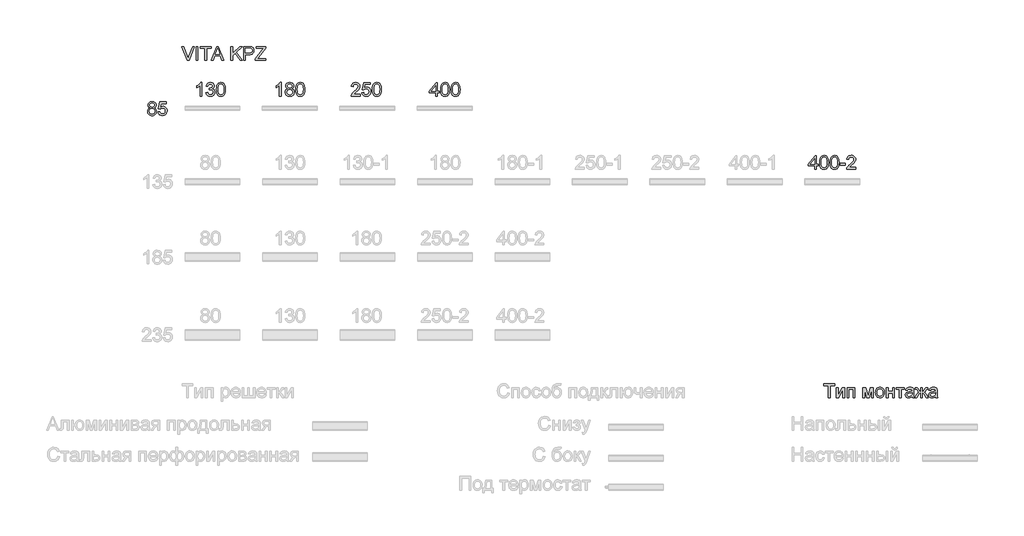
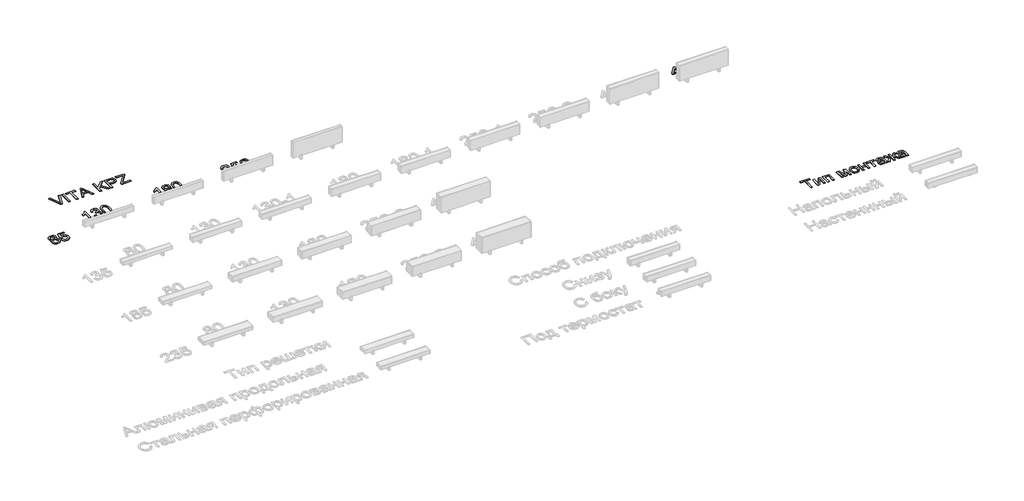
# One storey, part 7 of 7: 8 proxies.
"""IFC4 building model written with IfcOpenShell, lengths in millimetres."""

from ifc_helpers import new_model, si_unit, origin, origin_with_axes, place, context, project, spatial, polyline, outline, extrude, element, save

model = new_model("IFC4")

# Units and contexts
model_context = context("Model", 3, world=origin())
ifc_project = project(units=[si_unit("LENGTHUNIT", "METRE", prefix="MILLI")], contexts=[model_context])

# Site, building, storey
site = spatial("IfcSite", under=ifc_project)
building = spatial("IfcBuilding", under=site)
storey = spatial("IfcBuildingStorey", under=building, Name="Уровень 1", Elevation=0.0)

# Proxies
placement = place(None, origin())
element("IfcBuildingElementProxy", 1, Name="Текст модели 1", ObjectType="Текст модели 1", at=placement, inside=storey, context=model_context, shape_type="SweptSolid", body=[
    extrude(outline(polyline([(1174.9533839, 1247.2159763), (1055.0238535, 1548.5849067), (1095.3437202, 1548.5849067), (1175.6155715, 1331.4609532), (1191.8759557, 1282.5326478), (1207.9156107, 1331.4609532), (1288.4081912, 1548.5849067), (1328.7280579, 1548.5849067), (1213.875299, 1247.2159763), (1174.9533839, 1247.2159763)])), origin_with_axes(), (0.0, 0.0, 1.0), 10.0),
    extrude(outline(polyline([(1368.4593134, 1247.2159763), (1368.4593134, 1548.5849067), (1406.1304297, 1548.5849067), (1406.1304297, 1247.2159763), (1368.4593134, 1247.2159763)])), origin_with_axes(), (0.0, 0.0, 1.0), 10.0),
    extrude(outline(polyline([(1556.8148949, 1247.2159763), (1556.8148949, 1510.9137904), (1457.9282146, 1510.9137904), (1457.9282146, 1548.5849067), (1693.3726915, 1548.5849067), (1693.3726915, 1510.9137904), (1594.4860112, 1510.9137904), (1594.4860112, 1247.2159763), (1556.8148949, 1247.2159763)])), origin_with_axes(), (0.0, 0.0, 1.0), 10.0),
    extrude(outline(polyline([(1700.656755, 1247.2159763), (1820.9541674, 1548.5849067), (1853.0334774, 1548.5849067), (1973.3308898, 1247.2159763), (1933.526058, 1247.2159763), (1899.0187268, 1341.3937671), (1774.8953416, 1341.3937671), (1740.4615869, 1247.2159763), (1700.656755, 1247.2159763)]), holes=[polyline([(1788.7277047, 1379.0648834), (1885.2599402, 1379.0648834), (1858.110249, 1453.1563172), (1836.9938224, 1510.9137904), (1818.2318407, 1459.6310403), (1788.7277047, 1379.0648834)])]), origin_with_axes(), (0.0, 0.0, 1.0), 10.0),
    extrude(outline(polyline([(2131.2994186, 1247.2159763), (2131.2994186, 1548.5849067), (2168.9705349, 1548.5849067), (2168.9705349, 1401.0642267), (2323.4809729, 1548.5849067), (2376.1616746, 1548.5849067), (2246.4464831, 1424.6822508), (2380.8705641, 1247.2159763), (2334.8117383, 1247.2159763), (2219.7382502, 1399.2248167), (2168.9705349, 1350.8115461), (2168.9705349, 1247.2159763), (2131.2994186, 1247.2159763)])), origin_with_axes(), (0.0, 0.0, 1.0), 10.0),
    extrude(outline(polyline([(2409.1239013, 1247.2159763), (2409.1239013, 1548.5849067), (2520.8128751, 1548.5849067), (2565.8416313, 1545.7154272), (2585.9187912, 1540.3535471), (2602.4458898, 1531.6255468), (2615.754021, 1519.135953), (2626.1742785, 1502.4892928), (2632.906519, 1482.8535913), (2635.1505992, 1461.3968739), (2633.6353852, 1442.8970081), (2629.0897433, 1425.8778673), (2621.5136735, 1410.3394515), (2610.9071757, 1396.2817607), (2596.3459465, 1384.6290985), (2576.9056823, 1376.3057684), (2552.5863831, 1371.3117703), (2523.388049, 1369.6471043), (2446.7950176, 1369.6471043), (2446.7950176, 1247.2159763), (2409.1239013, 1247.2159763)]), holes=[polyline([(2446.7950176, 1407.3182206), (2525.595341, 1407.3182206), (2558.9990262, 1410.7763114), (2581.0719459, 1421.1505836), (2593.3775986, 1437.7972439), (2597.4794829, 1460.0724987), (2595.0606587, 1476.9950705), (2587.8041864, 1491.2688919), (2576.6113767, 1502.0110462), (2562.3835405, 1508.3386165), (2524.7124242, 1510.9137904), (2446.7950176, 1510.9137904), (2446.7950176, 1407.3182206)])]), origin_with_axes(), (0.0, 0.0, 1.0), 10.0),
    extrude(outline(polyline([(2663.4039364, 1247.2159763), (2663.4039364, 1286.2850442), (2817.5464924, 1475.0085077), (2846.8298992, 1510.9137904), (2682.2394945, 1510.9137904), (2682.2394945, 1548.5849067), (2894.1395238, 1548.5849067), (2894.1395238, 1510.9137904), (2725.4288408, 1304.3848383), (2709.5363386, 1284.8870926), (2898.8484133, 1284.8870926), (2898.8484133, 1247.2159763), (2663.4039364, 1247.2159763)])), origin_with_axes(), (0.0, 0.0, 1.0), 10.0),
])
element("IfcBuildingElementProxy", 2, Name="Текст модели 1", ObjectType="Текст модели 1", at=placement, inside=storey, context=model_context, shape_type="SweptSolid", body=[
    extrude(outline(polyline([(1492.2063954, 459.2293659), (1454.535279, 459.2293659), (1454.535279, 694.0852316), (1418.8507255, 668.6645858), (1379.1930464, 649.6450866), (1379.1930464, 685.2560637), (1408.7799559, 701.350901), (1434.4121339, 720.4991589), (1454.6180525, 740.8614273), (1467.9261837, 760.5982964), (1492.2063954, 760.5982964), (1492.2063954, 459.2293659)])), origin_with_axes(), (0.0, 0.0, 1.0), 10.0),
    extrude(outline(polyline([(1581.6752966, 539.2804881), (1619.3464129, 543.9893776), (1627.7801076, 520.3161712), (1640.1317456, 504.3316985), (1657.0083321, 495.2266191), (1679.0168725, 492.1915927), (1704.8421886, 496.3670533), (1724.7813927, 508.8934353), (1737.5285038, 527.5818406), (1741.7775409, 550.2433715), (1737.565292, 571.7552712), (1724.9285455, 589.2020748), (1705.7986818, 600.7627665), (1682.1070813, 604.6163304), (1655.693154, 600.4960521), (1659.8870088, 638.1671684), (1665.9202735, 637.72571), (1688.4898339, 640.4296426), (1708.6681613, 648.5414406), (1722.9051945, 662.263439), (1727.6508723, 681.797973), (1724.2111756, 698.0675542), (1713.8920856, 711.2653208), (1698.1467363, 720.0117152), (1678.4282613, 722.9271801), (1658.6729982, 719.9841241), (1642.5229786, 711.1549562), (1630.7323606, 696.4396764), (1624.0553024, 675.8382847), (1586.3841861, 680.5471742), (1597.4758283, 714.3739237), (1617.2126973, 739.6290226), (1644.2152358, 755.3559779), (1677.1038861, 760.5982964), (1700.7862896, 758.0139253), (1722.5373125, 750.2608123), (1740.87623, 738.028736), (1754.3223169, 722.0074751), (1762.5720707, 703.548996), (1765.3219886, 684.005265), (1762.7100264, 665.7951062), (1754.8741399, 649.2772046), (1741.9246937, 635.2057183), (1723.9720523, 624.3348053), (1747.5532882, 614.8066617), (1765.027683, 598.5830657), (1775.8434136, 576.5469342), (1779.4486572, 549.5811839), (1777.6460354, 530.4697143), (1772.2381701, 512.8665608), (1763.2250612, 496.7717235), (1750.6067088, 482.1852024), (1735.2338399, 470.0818848), (1717.9571817, 461.4366579), (1698.7767342, 456.2495217), (1677.6924973, 454.5204764), (1658.63621, 455.9966029), (1641.2721798, 460.4249824), (1625.6004068, 467.8056149), (1611.620891, 478.1385005), (1599.8992509, 490.8166337), (1591.0011052, 505.2330094), (1584.9264537, 521.3876275), (1581.6752966, 539.2804881)])), origin_with_axes(), (0.0, 0.0, 1.0), 10.0),
    extrude(outline(polyline([(1812.410884, 607.48581), (1815.179196, 655.7243366), (1823.484132, 694.1955962), (1837.2429186, 723.4882001), (1856.3727824, 744.1907594), (1881.011679, 756.4964121), (1911.2975643, 760.5982964), (1934.5109182, 758.1702752), (1955.2962509, 750.8862117), (1972.6786752, 739.0312144), (1985.6833037, 722.8903919), (1995.505753, 702.6016998), (2003.3416395, 678.303094), (2008.4735933, 647.4469917), (2010.1842446, 607.48581), (2007.4435237, 559.5231948), (1999.2213611, 521.1439057), (1985.5453479, 491.8237107), (1966.4430753, 471.038378), (1941.7489964, 458.6499518), (1911.2975643, 454.5204764), (1890.5490197, 456.3139011), (1872.15492, 461.6941753), (1856.115265, 470.6612989), (1842.4300548, 483.215272), (1829.2966675, 505.9089926), (1819.9156767, 534.1853224), (1814.2870821, 568.0442616), (1812.410884, 607.48581)]), holes=[polyline([(1850.0820003, 607.5593864), (1854.4965842, 548.302794), (1860.0148141, 528.0347953), (1867.740336, 514.006995), (1887.458811, 497.6454433), (1911.2975643, 492.1915927), (1935.1363175, 497.6638374), (1954.8547925, 514.0805714), (1962.5803144, 528.1313643), (1968.0985443, 548.3947645), (1972.5131283, 607.5593864), (1968.2456971, 665.4824065), (1962.9114082, 685.6837266), (1955.4434037, 700.04492), (1935.7617169, 717.206615), (1910.8561059, 722.9271801), (1887.27487, 717.8871967), (1868.3289472, 702.7672467), (1860.3459079, 687.1322619), (1854.643737, 666.0526236), (1850.0820003, 607.5593864)])]), origin_with_axes(), (0.0, 0.0, 1.0), 10.0),
])
element("IfcBuildingElementProxy", 3, Name="Текст модели 1", ObjectType="Текст модели 1", at=placement, inside=storey, context=model_context, shape_type="SweptSolid", body=[
    extrude(outline(polyline([(355.9285764, 204.6480041), (335.759446, 214.580818), (321.6051862, 228.045299), (313.2450679, 244.7655357), (310.4583617, 264.4656165), (311.975875, 279.8292884), (316.5284147, 293.9145702), (324.1159808, 306.7214622), (334.7385734, 318.2499642), (347.8857562, 327.7781079), (363.047093, 334.5839248), (399.4122282, 340.0285783), (435.9980926, 334.4551661), (451.3249762, 327.4884008), (464.6744941, 317.7349294), (475.4902248, 305.9810997), (483.2157467, 293.0132594), (487.8510598, 278.8314084), (489.3961642, 263.4355469), (486.6462463, 244.3700625), (478.3964925, 227.9349344), (464.5549325, 214.5532268), (445.0295956, 204.6480041), (468.2153583, 192.7010363), (485.0919449, 175.1070799), (495.3834437, 152.7122634), (498.8139433, 126.3627155), (497.112489, 107.5731426), (492.0081264, 90.3470682), (483.5008552, 74.6844923), (471.5906756, 60.5854148), (456.902987, 48.9327526), (440.0631886, 40.6094225), (421.0712806, 35.6154244), (399.927263, 33.9507584), (378.7832453, 35.6223222), (359.7913373, 40.6370136), (342.951539, 48.9948327), (328.2638503, 60.6957794), (316.3536707, 74.8937252), (307.8463996, 90.7425414), (302.7420369, 108.242228), (301.0405827, 127.3927851), (304.609038, 154.7632056), (315.3144041, 177.2775837), (332.6048579, 194.1633673), (355.9285764, 204.6480041)]), holes=[polyline([(338.711699, 128.7171603), (345.0024811, 100.3534585), (353.7120873, 88.1857615), (367.2593418, 79.1266674), (383.4829378, 73.4980728), (400.2215686, 71.6218747), (425.8629436, 75.5674091), (445.103172, 87.4040123), (457.1329132, 105.3290625), (461.142827, 127.5399379), (457.0041545, 150.1278924), (444.5881372, 168.4484158), (424.9064504, 180.5885216), (398.9707698, 184.6352236), (373.6880797, 180.6437039), (354.6409894, 168.669145), (342.6940216, 150.6981095), (338.711699, 128.7171603)]), polyline([(348.1294781, 263.3619705), (351.4680072, 246.9176454), (361.4835945, 233.7842581), (377.8819344, 225.1758194), (400.3687214, 222.3063399), (422.3312765, 225.1574253), (438.4812961, 233.7106817), (448.4141099, 246.4026106), (451.7250479, 261.6697134), (448.3037453, 277.5162303), (438.0398377, 290.6220264), (421.6690889, 299.4236031), (399.927263, 302.357462), (378.0474813, 299.4879825), (361.7043237, 290.8795438), (351.5231895, 278.2611914), (348.1294781, 263.3619705)])]), origin_with_axes(), (0.0, 0.0, 1.0), 10.0),
    extrude(outline(polyline([(531.77617, 118.71077), (569.4472864, 123.4196596), (576.3634679, 100.8041139), (588.4299973, 84.6081091), (605.5916924, 74.8684333), (627.7933708, 71.6218747), (654.7959092, 76.1376262), (675.029419, 89.6848806), (687.6661655, 110.7001396), (691.8784143, 137.6199046), (687.9328799, 162.9669741), (676.0962768, 182.3543552), (656.2766343, 194.6600079), (628.381982, 198.7618922), (610.1074439, 197.1248173), (595.3093906, 192.2135927), (574.1561759, 175.2174445), (536.4850596, 179.926334), (569.4472864, 335.3196888), (715.422862, 335.3196888), (715.422862, 297.6485725), (599.9079156, 297.6485725), (583.7946842, 214.6543944), (610.7052521, 230.988355), (638.903407, 236.4330085), (657.2492223, 234.7453498), (674.1005169, 229.6823739), (689.457291, 221.2440806), (703.3195444, 209.4304701), (714.7951634, 194.9635106), (722.9920341, 178.5651707), (727.9101565, 160.2354503), (729.5495307, 139.9743494), (723.6450246, 102.3032331), (716.2643921, 85.50942), (705.9315066, 70.0767703), (690.2781277, 54.2716401), (672.0127866, 42.9822613), (651.1354834, 36.2086341), (627.646218, 33.9507584), (590.6464863, 39.7540968), (574.9678155, 47.0082699), (561.1699415, 57.1641123), (549.6897239, 69.7157861), (540.9640229, 84.1574536), (531.77617, 118.71077)])), origin_with_axes(), (0.0, 0.0, 1.0), 10.0),
])
element("IfcBuildingElementProxy", 4, Name="Текст модели 1", ObjectType="Текст модели 1", at=placement, inside=storey, context=model_context, shape_type="SweptSolid", body=[
    extrude(outline(polyline([(3232.2063954, 459.2293659), (3194.535279, 459.2293659), (3194.535279, 694.0852316), (3158.8507255, 668.6645858), (3119.1930464, 649.6450866), (3119.1930464, 685.2560637), (3148.7799559, 701.350901), (3174.4121339, 720.4991589), (3194.6180525, 740.8614273), (3207.9261837, 760.5982964), (3232.2063954, 760.5982964), (3232.2063954, 459.2293659)])), origin_with_axes(), (0.0, 0.0, 1.0), 10.0),
    extrude(outline(polyline([(3376.5632903, 625.2177221), (3356.3941599, 635.150536), (3342.2399001, 648.615017), (3333.8797818, 665.3352537), (3331.0930757, 685.0353345), (3332.6105889, 700.3990064), (3337.1631286, 714.4842883), (3344.7506947, 727.2911802), (3355.3732873, 738.8196822), (3368.5204701, 748.3478259), (3383.6818069, 755.1536428), (3420.0469421, 760.5982964), (3456.6328065, 755.0248841), (3471.9596901, 748.0581188), (3485.309208, 738.3046475), (3496.1249387, 726.5508177), (3503.8504606, 713.5829774), (3508.4857737, 699.4011265), (3510.0308781, 684.005265), (3507.2809602, 664.9397806), (3499.0312065, 648.5046524), (3485.1896464, 635.1229449), (3465.6643095, 625.2177221), (3488.8500722, 613.2707543), (3505.7266588, 595.6767979), (3516.0181576, 573.2819815), (3519.4486572, 546.9324336), (3517.747203, 528.1428607), (3512.6428403, 510.9167862), (3504.1355691, 495.2542103), (3492.2253895, 481.1551328), (3477.5377009, 469.5024706), (3460.6979026, 461.1791405), (3441.7059946, 456.1851424), (3420.5619769, 454.5204764), (3399.4179592, 456.1920402), (3380.4260512, 461.2067316), (3363.5862529, 469.5645507), (3348.8985642, 481.2654974), (3336.9883846, 495.4634432), (3328.4811135, 511.3122594), (3323.3767508, 528.811946), (3321.6752966, 547.9625031), (3325.2437519, 575.3329236), (3335.949118, 597.8473017), (3353.2395718, 614.7330853), (3376.5632903, 625.2177221)]), holes=[polyline([(3359.3464129, 549.2868783), (3365.637195, 520.9231765), (3374.3468012, 508.7554795), (3387.8940557, 499.6963854), (3404.1176517, 494.0677909), (3420.8562825, 492.1915927), (3446.4976575, 496.1371271), (3465.7378859, 507.9737303), (3477.7676271, 525.8987805), (3481.7775409, 548.1096559), (3477.6388684, 570.6976104), (3465.2228511, 589.0181338), (3445.5411644, 601.1582396), (3419.6054837, 605.2049416), (3394.3227936, 601.2134219), (3375.2757033, 589.238863), (3363.3287355, 571.2678275), (3359.3464129, 549.2868783)]), polyline([(3368.764192, 683.9316886), (3372.1027211, 667.4873634), (3382.1183084, 654.3539762), (3398.5166483, 645.7455375), (3421.0034353, 642.8760579), (3442.9659904, 645.7271434), (3459.11601, 654.2803998), (3469.0488238, 666.9723286), (3472.3597618, 682.2394314), (3468.9384593, 698.0859483), (3458.6745516, 711.1917444), (3442.3038028, 719.9933211), (3420.5619769, 722.9271801), (3398.6821952, 720.0577005), (3382.3390376, 711.4492618), (3372.1579034, 698.8309094), (3368.764192, 683.9316886)])]), origin_with_axes(), (0.0, 0.0, 1.0), 10.0),
    extrude(outline(polyline([(3552.410884, 607.48581), (3555.179196, 655.7243366), (3563.484132, 694.1955962), (3577.2429186, 723.4882001), (3596.3727824, 744.1907594), (3621.011679, 756.4964121), (3651.2975643, 760.5982964), (3674.5109182, 758.1702752), (3695.2962509, 750.8862117), (3712.6786752, 739.0312144), (3725.6833037, 722.8903919), (3735.505753, 702.6016998), (3743.3416395, 678.303094), (3748.4735933, 647.4469917), (3750.1842446, 607.48581), (3747.4435237, 559.5231948), (3739.2213611, 521.1439057), (3725.5453479, 491.8237107), (3706.4430753, 471.038378), (3681.7489964, 458.6499518), (3651.2975643, 454.5204764), (3630.5490197, 456.3139011), (3612.15492, 461.6941753), (3596.115265, 470.6612989), (3582.4300548, 483.215272), (3569.2966675, 505.9089926), (3559.9156767, 534.1853224), (3554.2870821, 568.0442616), (3552.410884, 607.48581)]), holes=[polyline([(3590.0820003, 607.5593864), (3594.4965842, 548.302794), (3600.0148141, 528.0347953), (3607.740336, 514.006995), (3627.458811, 497.6454433), (3651.2975643, 492.1915927), (3675.1363175, 497.6638374), (3694.8547925, 514.0805714), (3702.5803144, 528.1313643), (3708.0985443, 548.3947645), (3712.5131283, 607.5593864), (3708.2456971, 665.4824065), (3702.9114082, 685.6837266), (3695.4434037, 700.04492), (3675.7617169, 717.206615), (3650.8561059, 722.9271801), (3627.27487, 717.8871967), (3608.3289472, 702.7672467), (3600.3459079, 687.1322619), (3594.643737, 666.0526236), (3590.0820003, 607.5593864)])]), origin_with_axes(), (0.0, 0.0, 1.0), 10.0),
])
element("IfcBuildingElementProxy", 5, Name="Текст модели 1", ObjectType="Текст модели 1", at=placement, inside=storey, context=model_context, shape_type="SweptSolid", body=[
    extrude(outline(polyline([(4964.0041803, 496.9004822), (4964.0041803, 459.2293659), (4766.2308197, 459.2293659), (4770.2775216, 485.2018348), (4779.566542, 505.4997239), (4793.1597817, 525.1906076), (4812.8230744, 545.8011964), (4840.3222535, 568.8582005), (4880.973214, 604.9658183), (4905.3637902, 631.6188688), (4917.5590784, 653.2503302), (4921.6241744, 674.2931803), (4917.7890046, 693.1563296), (4906.2834952, 708.8372996), (4888.5975683, 719.4047099), (4866.221146, 722.9271801), (4842.7226835, 719.4874834), (4824.4665395, 709.1683934), (4812.6851186, 692.7792505), (4808.6108255, 671.1293951), (4770.9397092, 675.8382847), (4780.0723797, 712.2769963), (4788.6187383, 726.8129336), (4799.8184458, 738.8932586), (4813.4139848, 748.3892126), (4829.1478379, 755.1720369), (4867.0304863, 760.5982964), (4887.2203101, 759.0899802), (4905.1890463, 754.5650316), (4920.936695, 747.0234507), (4934.4632561, 736.4652375), (4945.3272712, 723.6721411), (4953.0872821, 709.4259108), (4957.7432886, 693.7265467), (4959.2952907, 676.5740487), (4957.6214277, 658.5570279), (4952.5998384, 640.8527069), (4943.6878971, 622.8448833), (4930.3429777, 603.9173546), (4909.0702013, 581.3202031), (4876.374689, 552.3035107), (4833.03819, 516.0671342), (4816.0420418, 496.9004822), (4964.0041803, 496.9004822)])), origin_with_axes(), (0.0, 0.0, 1.0), 10.0),
    extrude(outline(polyline([(5001.6752966, 539.2804881), (5039.3464129, 543.9893776), (5046.2625944, 521.3738319), (5058.3291238, 505.1778271), (5075.4908189, 495.4381513), (5097.6924973, 492.1915927), (5124.6950358, 496.7073442), (5144.9285455, 510.2545986), (5157.565292, 531.2698576), (5161.7775409, 558.1896226), (5157.8320065, 583.5366921), (5145.9954033, 602.9240732), (5126.1757608, 615.229726), (5098.2811085, 619.3316102), (5080.0065704, 617.6945353), (5065.2085171, 612.7833107), (5044.0553024, 595.7871625), (5006.3841861, 600.4960521), (5039.3464129, 755.8894068), (5185.3219886, 755.8894068), (5185.3219886, 718.2182905), (5069.8070421, 718.2182905), (5053.6938107, 635.2241124), (5080.6043786, 651.558073), (5108.8025336, 657.0027265), (5127.1483488, 655.3150679), (5143.9996435, 650.2520919), (5159.3564175, 641.8137986), (5173.2186709, 630.0001881), (5184.6942899, 615.5332286), (5192.8911606, 599.1348887), (5197.809283, 580.8051683), (5199.4486572, 560.5440674), (5193.5441512, 522.8729511), (5186.1635186, 506.079138), (5175.8306331, 490.6464883), (5160.1772542, 474.8413581), (5141.9119131, 463.5519794), (5121.0346099, 456.7783521), (5097.5453445, 454.5204764), (5060.5456129, 460.3238148), (5044.8669421, 467.5779879), (5031.069068, 477.7338303), (5019.5888505, 490.2855041), (5010.8631494, 504.7271717), (5001.6752966, 539.2804881)])), origin_with_axes(), (0.0, 0.0, 1.0), 10.0),
    extrude(outline(polyline([(5232.410884, 607.48581), (5235.179196, 655.7243366), (5243.484132, 694.1955962), (5257.2429186, 723.4882001), (5276.3727824, 744.1907594), (5301.011679, 756.4964121), (5331.2975643, 760.5982964), (5354.5109182, 758.1702752), (5375.2962509, 750.8862117), (5392.6786752, 739.0312144), (5405.6833037, 722.8903919), (5415.505753, 702.6016998), (5423.3416395, 678.303094), (5428.4735933, 647.4469917), (5430.1842446, 607.48581), (5427.4435237, 559.5231948), (5419.2213611, 521.1439057), (5405.5453479, 491.8237107), (5386.4430753, 471.038378), (5361.7489964, 458.6499518), (5331.2975643, 454.5204764), (5310.5490197, 456.3139011), (5292.15492, 461.6941753), (5276.115265, 470.6612989), (5262.4300548, 483.215272), (5249.2966675, 505.9089926), (5239.9156767, 534.1853224), (5234.2870821, 568.0442616), (5232.410884, 607.48581)]), holes=[polyline([(5270.0820003, 607.5593864), (5274.4965842, 548.302794), (5280.0148141, 528.0347953), (5287.740336, 514.006995), (5307.458811, 497.6454433), (5331.2975643, 492.1915927), (5355.1363175, 497.6638374), (5374.8547925, 514.0805714), (5382.5803144, 528.1313643), (5388.0985443, 548.3947645), (5392.5131283, 607.5593864), (5388.2456971, 665.4824065), (5382.9114082, 685.6837266), (5375.4434037, 700.04492), (5355.7617169, 717.206615), (5330.8561059, 722.9271801), (5307.27487, 717.8871967), (5288.3289472, 702.7672467), (5280.3459079, 687.1322619), (5274.643737, 666.0526236), (5270.0820003, 607.5593864)])]), origin_with_axes(), (0.0, 0.0, 1.0), 10.0),
])
element("IfcBuildingElementProxy", 6, Name="Текст модели 1", ObjectType="Текст модели 1", at=placement, inside=storey, context=model_context, shape_type="SweptSolid", body=[
    extrude(outline(polyline([(6619.4742183, 459.2293659), (6619.4742183, 529.862709), (6482.9164217, 529.862709), (6482.9164217, 567.5338253), (6628.8919973, 755.8894068), (6657.1453346, 755.8894068), (6657.1453346, 567.5338253), (6694.8164509, 567.5338253), (6694.8164509, 529.862709), (6657.1453346, 529.862709), (6657.1453346, 459.2293659), (6619.4742183, 459.2293659)]), holes=[polyline([(6619.4742183, 567.5338253), (6619.4742183, 683.9316886), (6529.269553, 567.5338253), (6619.4742183, 567.5338253)])]), origin_with_axes(), (0.0, 0.0, 1.0), 10.0),
    extrude(outline(polyline([(6727.7786776, 607.48581), (6730.5469897, 655.7243366), (6738.8519257, 694.1955962), (6752.6107123, 723.4882001), (6771.7405761, 744.1907594), (6796.3794727, 756.4964121), (6826.6653579, 760.5982964), (6849.8787118, 758.1702752), (6870.6640446, 750.8862117), (6888.0464688, 739.0312144), (6901.0510974, 722.8903919), (6910.8735466, 702.6016998), (6918.7094331, 678.303094), (6923.841387, 647.4469917), (6925.5520383, 607.48581), (6922.8113174, 559.5231948), (6914.5891548, 521.1439057), (6900.9131416, 491.8237107), (6881.810869, 471.038378), (6857.1167901, 458.6499518), (6826.6653579, 454.5204764), (6805.9168134, 456.3139011), (6787.5227137, 461.6941753), (6771.4830587, 470.6612989), (6757.7978485, 483.215272), (6744.6644612, 505.9089926), (6735.2834703, 534.1853224), (6729.6548758, 568.0442616), (6727.7786776, 607.48581)]), holes=[polyline([(6765.449794, 607.5593864), (6769.8643779, 548.302794), (6775.3826078, 528.0347953), (6783.1081297, 514.006995), (6802.8266047, 497.6454433), (6826.6653579, 492.1915927), (6850.5041112, 497.6638374), (6870.2225862, 514.0805714), (6877.9481081, 528.1313643), (6883.466338, 548.3947645), (6887.8809219, 607.5593864), (6883.6134908, 665.4824065), (6878.2792019, 685.6837266), (6870.8111974, 700.04492), (6851.1295106, 717.206615), (6826.2238996, 722.9271801), (6802.6426637, 717.8871967), (6783.6967409, 702.7672467), (6775.7137016, 687.1322619), (6770.0115307, 666.0526236), (6765.449794, 607.5593864)])]), origin_with_axes(), (0.0, 0.0, 1.0), 10.0),
    extrude(outline(polyline([(6958.514265, 607.48581), (6961.282577, 655.7243366), (6969.5875131, 694.1955962), (6983.3462997, 723.4882001), (7002.4761634, 744.1907594), (7027.1150601, 756.4964121), (7057.4009453, 760.5982964), (7080.6142992, 758.1702752), (7101.3996319, 750.8862117), (7118.7820562, 739.0312144), (7131.7866847, 722.8903919), (7141.609134, 702.6016998), (7149.4450205, 678.303094), (7154.5769743, 647.4469917), (7156.2876256, 607.48581), (7153.5469048, 559.5231948), (7145.3247422, 521.1439057), (7131.648729, 491.8237107), (7112.5464564, 471.038378), (7087.8523775, 458.6499518), (7057.4009453, 454.5204764), (7036.6524008, 456.3139011), (7018.258301, 461.6941753), (7002.218646, 470.6612989), (6988.5334358, 483.215272), (6975.4000486, 505.9089926), (6966.0190577, 534.1853224), (6960.3904632, 568.0442616), (6958.514265, 607.48581)]), holes=[polyline([(6996.1853813, 607.5593864), (7000.5999653, 548.302794), (7006.1181952, 528.0347953), (7013.8437171, 514.006995), (7033.562192, 497.6454433), (7057.4009453, 492.1915927), (7081.2396986, 497.6638374), (7100.9581736, 514.0805714), (7108.6836955, 528.1313643), (7114.2019254, 548.3947645), (7118.6165093, 607.5593864), (7114.3490782, 665.4824065), (7109.0147892, 685.6837266), (7101.5467847, 700.04492), (7081.865098, 717.206615), (7056.9594869, 722.9271801), (7033.378251, 717.8871967), (7014.4323283, 702.7672467), (7006.449289, 687.1322619), (7000.7471181, 666.0526236), (6996.1853813, 607.5593864)])]), origin_with_axes(), (0.0, 0.0, 1.0), 10.0),
])
element("IfcBuildingElementProxy", 7, Name="Текст модели 1", ObjectType="Текст модели 1", at=placement, inside=storey, context=model_context, shape_type="SweptSolid", body=[
    extrude(outline(polyline([(14933.4730815, -1140.7706341), (14933.4730815, -1070.137291), (14796.9152849, -1070.137291), (14796.9152849, -1032.4661747), (14942.8908606, -844.1105932), (14971.1441978, -844.1105932), (14971.1441978, -1032.4661747), (15008.8153141, -1032.4661747), (15008.8153141, -1070.137291), (14971.1441978, -1070.137291), (14971.1441978, -1140.7706341), (14933.4730815, -1140.7706341)]), holes=[polyline([(14933.4730815, -1032.4661747), (14933.4730815, -916.0683114), (14843.2684163, -1032.4661747), (14933.4730815, -1032.4661747)])]), origin_with_axes(), (0.0, 0.0, 1.0), 10.0),
    extrude(outline(polyline([(15041.7775409, -992.51419), (15044.5458529, -944.2756634), (15052.8507889, -905.8044038), (15066.6095756, -876.5117999), (15085.7394393, -855.8092406), (15110.3783359, -843.5035879), (15140.6642212, -839.4017036), (15163.8775751, -841.8297248), (15184.6629078, -849.1137883), (15202.0453321, -860.9687856), (15215.0499606, -877.1096081), (15224.8724099, -897.3983002), (15232.7082964, -921.696906), (15237.8402502, -952.5530083), (15239.5509015, -992.51419), (15236.8101806, -1040.4768052), (15228.588018, -1078.8560943), (15214.9120049, -1108.1762893), (15195.8097323, -1128.961622), (15171.1156533, -1141.3500482), (15140.6642212, -1145.4795236), (15119.9156767, -1143.6860989), (15101.5215769, -1138.3058247), (15085.4819219, -1129.3387011), (15071.7967117, -1116.784728), (15058.6633245, -1094.0910074), (15049.2823336, -1065.8146776), (15043.6537391, -1031.9557384), (15041.7775409, -992.51419)]), holes=[polyline([(15079.4486572, -992.4406136), (15083.8632411, -1051.697206), (15089.3814711, -1071.9652047), (15097.106993, -1085.993005), (15116.8254679, -1102.3545567), (15140.6642212, -1107.8084073), (15164.5029745, -1102.3361626), (15184.2214494, -1085.9194286), (15191.9469713, -1071.8686357), (15197.4652012, -1051.6052355), (15201.8797852, -992.4406136), (15197.612354, -934.5175935), (15192.2780651, -914.3162734), (15184.8100606, -899.95508), (15165.1283739, -882.793385), (15140.2227628, -877.0728199), (15116.6415269, -882.1128033), (15097.6956041, -897.2327533), (15089.7125649, -912.8677381), (15084.0103939, -933.9473764), (15079.4486572, -992.4406136)])]), origin_with_axes(), (0.0, 0.0, 1.0), 10.0),
    extrude(outline(polyline([(15272.5131283, -992.51419), (15275.2814403, -944.2756634), (15283.5863763, -905.8044038), (15297.3451629, -876.5117999), (15316.4750267, -855.8092406), (15341.1139233, -843.5035879), (15371.3998086, -839.4017036), (15394.6131625, -841.8297248), (15415.3984952, -849.1137883), (15432.7809195, -860.9687856), (15445.785548, -877.1096081), (15455.6079973, -897.3983002), (15463.4438838, -921.696906), (15468.5758376, -952.5530083), (15470.2864889, -992.51419), (15467.545768, -1040.4768052), (15459.3236054, -1078.8560943), (15445.6475922, -1108.1762893), (15426.5453196, -1128.961622), (15401.8512407, -1141.3500482), (15371.3998086, -1145.4795236), (15350.651264, -1143.6860989), (15332.2571643, -1138.3058247), (15316.2175093, -1129.3387011), (15302.5322991, -1116.784728), (15289.3989118, -1094.0910074), (15280.017921, -1065.8146776), (15274.3893264, -1031.9557384), (15272.5131283, -992.51419)]), holes=[polyline([(15310.1842446, -992.4406136), (15314.5988285, -1051.697206), (15320.1170584, -1071.9652047), (15327.8425803, -1085.993005), (15347.5610553, -1102.3545567), (15371.3998086, -1107.8084073), (15395.2385618, -1102.3361626), (15414.9570368, -1085.9194286), (15422.6825587, -1071.8686357), (15428.2007886, -1051.6052355), (15432.6153726, -992.4406136), (15428.3479414, -934.5175935), (15423.0136525, -914.3162734), (15415.545648, -899.95508), (15395.8639612, -882.793385), (15370.9583502, -877.0728199), (15347.3771143, -882.1128033), (15328.4311915, -897.2327533), (15320.4481522, -912.8677381), (15314.7459813, -933.9473764), (15310.1842446, -992.4406136)])]), origin_with_axes(), (0.0, 0.0, 1.0), 10.0),
    extrude(outline(polyline([(15493.8309366, -1051.3017329), (15493.8309366, -1013.6306166), (15611.553175, -1013.6306166), (15611.553175, -1051.3017329), (15493.8309366, -1051.3017329)])), origin_with_axes(), (0.0, 0.0, 1.0), 10.0),
    extrude(outline(polyline([(15837.5798728, -1103.0995178), (15837.5798728, -1140.7706341), (15639.8065122, -1140.7706341), (15643.8532142, -1114.7981652), (15653.1422346, -1094.5002761), (15666.7354743, -1074.8093924), (15686.3987669, -1054.1988036), (15713.8979461, -1031.1417995), (15754.5489065, -995.0341817), (15778.9394828, -968.3811312), (15791.134771, -946.7496698), (15795.199867, -925.7068197), (15791.3646972, -906.8436704), (15779.8591878, -891.1627004), (15762.1732609, -880.5952901), (15739.7968385, -877.0728199), (15716.2983761, -880.5125166), (15698.0422321, -890.8316066), (15686.2608112, -907.2207495), (15682.1865181, -928.8706049), (15644.5154018, -924.1617153), (15653.6480723, -887.7230037), (15662.1944309, -873.1870664), (15673.3941384, -861.1067414), (15686.9896774, -851.6107874), (15702.7235305, -844.8279631), (15740.6061789, -839.4017036), (15760.7960027, -840.9100198), (15778.7647389, -845.4349684), (15794.5123875, -852.9765493), (15808.0389486, -863.5347625), (15818.9029638, -876.3278589), (15826.6629746, -890.5740892), (15831.3189811, -906.2734533), (15832.8709833, -923.4259513), (15831.1971202, -941.4429721), (15826.175531, -959.1472931), (15817.2635897, -977.1551167), (15803.9186703, -996.0826454), (15782.6458939, -1018.6797969), (15749.9503816, -1047.6964893), (15706.6138826, -1083.9328658), (15689.6177344, -1103.0995178), (15837.5798728, -1103.0995178)])), origin_with_axes(), (0.0, 0.0, 1.0), 10.0),
])
element("IfcBuildingElementProxy", 8, Name="Текст модели 1", ObjectType="Текст модели 1", at=placement, inside=storey, context=model_context, shape_type="SweptSolid", body=[
    extrude(outline(polyline([(15237.723726, -6152.7840237), (15237.723726, -5889.0862096), (15138.8370457, -5889.0862096), (15138.8370457, -5851.4150933), (15374.2815226, -5851.4150933), (15374.2815226, -5889.0862096), (15275.3948423, -5889.0862096), (15275.3948423, -6152.7840237), (15237.723726, -6152.7840237)])), origin_with_axes(), (0.0, 0.0, 1.0), 10.0),
    extrude(outline(polyline([(15411.9526389, -5931.4662154), (15449.6237552, -5931.4662154), (15449.6237552, -6100.2504748), (15542.1828652, -5931.4662154), (15590.8904414, -5931.4662154), (15590.8904414, -6152.7840237), (15553.2193251, -6152.7840237), (15553.2193251, -5985.0298339), (15461.2488263, -6152.7840237), (15411.9526389, -6152.7840237), (15411.9526389, -5931.4662154)])), origin_with_axes(), (0.0, 0.0, 1.0), 10.0),
    extrude(outline(polyline([(15647.3971158, -5931.4662154), (15816.9171392, -5931.4662154), (15816.9171392, -6152.7840237), (15779.2460229, -6152.7840237), (15779.2460229, -5969.1373317), (15685.0682321, -5969.1373317), (15685.0682321, -6152.7840237), (15647.3971158, -6152.7840237), (15647.3971158, -5931.4662154)])), origin_with_axes(), (0.0, 0.0, 1.0), 10.0),
    extrude(outline(polyline([(15991.1460521, -5931.4662154), (16055.9668597, -5931.4662154), (16105.9252346, -6108.6381843), (16159.7831587, -5931.4662154), (16221.8816395, -5931.4662154), (16221.8816395, -6152.7840237), (16184.2105232, -6152.7840237), (16184.2105232, -5974.5819852), (16130.0582935, -6152.7840237), (16080.6149533, -6152.7840237), (16028.8171684, -5966.0471229), (16028.8171684, -6152.7840237), (15991.1460521, -6152.7840237), (15991.1460521, -5931.4662154)])), origin_with_axes(), (0.0, 0.0, 1.0), 10.0),
    extrude(outline(polyline([(16268.9705349, -6042.1251196), (16271.0076814, -6013.4625136), (16277.1191211, -5988.7638362), (16287.3048538, -5968.0290872), (16301.5648797, -5951.2582667), (16315.9214745, -5940.5391051), (16331.7679915, -5932.8825611), (16349.1044305, -5928.2886347), (16367.9307916, -5926.7573259), (16388.713825, -5928.6220277), (16407.5056972, -5934.2161333), (16424.3064081, -5943.5396426), (16439.1159576, -5956.5925557), (16451.2031805, -5972.933414), (16459.836911, -5992.1207594), (16465.0171494, -6014.1545916), (16466.7438955, -6039.0349108), (16463.6904749, -6077.0923032), (16454.5302132, -6106.0630103), (16439.5298249, -6127.758851), (16418.9560243, -6143.991644), (16394.5194628, -6154.1175959), (16367.9307916, -6157.4929132), (16346.8442555, -6155.6351092), (16327.8776394, -6150.0616969), (16311.0309432, -6140.7726766), (16296.3041671, -6127.768048), (16284.345703, -6111.2685405), (16275.8039429, -6091.4948833), (16270.6788869, -6068.4470763), (16268.9705349, -6042.1251196)]), holes=[polyline([(16306.6416512, -6042.0515432), (16311.0010528, -6076.1450071), (16324.0792578, -6100.4344158), (16343.7609445, -6114.9749516), (16367.9307916, -6119.8217969), (16391.9902741, -6114.9473605), (16411.6351726, -6100.3240512), (16424.7133775, -6075.7127457), (16429.0727792, -6040.8743208), (16424.6857864, -6007.7741383), (16411.524808, -5983.8158233), (16391.8523183, -5969.2752875), (16367.9307916, -5964.4284422), (16343.7609445, -5969.2568934), (16324.0792578, -5983.7422469), (16311.0010528, -6007.9764733), (16306.6416512, -6042.0515432)])]), origin_with_axes(), (0.0, 0.0, 1.0), 10.0),
    extrude(outline(polyline([(16509.1239013, -5931.4662154), (16546.7950176, -5931.4662154), (16546.7950176, -6016.2262271), (16645.6816979, -6016.2262271), (16645.6816979, -5931.4662154), (16683.3528142, -5931.4662154), (16683.3528142, -6152.7840237), (16645.6816979, -6152.7840237), (16645.6816979, -6053.8973434), (16546.7950176, -6053.8973434), (16546.7950176, -6152.7840237), (16509.1239013, -6152.7840237), (16509.1239013, -5931.4662154)])), origin_with_axes(), (0.0, 0.0, 1.0), 10.0),
    extrude(outline(polyline([(16721.0239306, -5931.4662154), (16899.961733, -5931.4662154), (16899.961733, -5969.1373317), (16829.3283899, -5969.1373317), (16829.3283899, -6152.7840237), (16791.6572736, -6152.7840237), (16791.6572736, -5969.1373317), (16721.0239306, -5969.1373317), (16721.0239306, -5931.4662154)])), origin_with_axes(), (0.0, 0.0, 1.0), 10.0),
    extrude(outline(polyline([(17074.1906459, -6124.5306865), (17056.1920193, -6139.9633362), (17037.6599638, -6150.0616969), (17018.1714151, -6155.6351092), (16997.3033089, -6157.4929132), (16965.8218072, -6153.023147), (16942.5992562, -6139.6138483), (16928.2794496, -6119.2515798), (16923.5061807, -6093.9229045), (16925.3088025, -6078.3063138), (16930.7166678, -6064.1244629), (16939.058392, -6051.984357), (16949.6625906, -6042.4930015), (16976.0397296, -6030.1321665), (17008.6340744, -6024.4667838), (17047.1513193, -6018.5070955), (17073.9699167, -6011.5173376), (17074.1906459, -6003.1296281), (17071.5970779, -5986.3174209), (17063.8163737, -5975.3177492), (17046.4155553, -5967.1507689), (17022.1721318, -5964.4284422), (16999.7313301, -5966.240261), (16984.0595571, -5971.6757175), (16973.3725851, -5981.728093), (16965.8861865, -5997.3906689), (16928.2150702, -5992.6817794), (16934.7541727, -5972.0803877), (16944.5122426, -5955.8935799), (16958.3997879, -5943.5143507), (16977.3273166, -5934.335695), (17000.4762911, -5928.6519181), (17027.0281741, -5926.7573259), (17052.4948053, -5928.4311889), (17072.6823297, -5933.4527782), (17087.9034473, -5941.0035561), (17098.4708576, -5950.2649854), (17105.4790096, -5961.7153125), (17110.0223523, -5975.832784), (17111.8617622, -6008.7950108), (17111.8617622, -6055.663177), (17113.7747486, -6121.1093839), (17121.2795413, -6152.7840237), (17083.608425, -6152.7840237), (17074.1906459, -6124.5306865)]), holes=[polyline([(17074.1906459, -6049.1884539), (17013.4165403, -6060.7399485), (16981.0061365, -6066.8467896), (16966.3276449, -6076.7796035), (16961.177297, -6091.2741541), (16963.9823972, -6102.4761609), (16972.3976979, -6111.6548166), (16986.2392579, -6117.7800519), (17005.3231364, -6119.8217969), (17025.5566462, -6117.5685197), (17043.4357111, -6110.8086881), (17057.9302617, -6100.848283), (17068.0102284, -6088.9932857), (17072.4799946, -6076.7796035), (17073.9699167, -6059.8570317), (17074.1906459, -6049.1884539)])]), origin_with_axes(), (0.0, 0.0, 1.0), 10.0),
    extrude(outline(polyline([(17300.2173438, -5931.4662154), (17300.2173438, -6025.6440062), (17313.5070808, -6023.7034286), (17322.1798989, -6017.8816961), (17342.9652316, -5977.5986176), (17355.9330719, -5952.4906714), (17367.7604781, -5938.9710081), (17382.12627, -5933.3424136), (17403.0035732, -5931.4662154), (17417.9395822, -5931.4662154), (17417.9395822, -5969.3580609), (17407.56531, -5969.1373317), (17388.1411406, -5973.0368809), (17374.6766596, -5997.4642453), (17359.0416748, -6024.2460546), (17336.7112377, -6037.8576884), (17349.1042624, -6043.1597877), (17361.3409373, -6052.5177859), (17385.3452374, -6083.4014794), (17427.3573613, -6152.7840237), (17384.1680151, -6152.7840237), (17342.8180788, -6084.3579726), (17331.5149045, -6066.3961342), (17321.7384405, -6055.9206944), (17311.8516119, -6050.871514), (17300.2173438, -6049.1884539), (17300.2173438, -6152.7840237), (17262.5462275, -6152.7840237), (17262.5462275, -6049.1884539), (17251.0039299, -6050.8347258), (17241.0987071, -6055.7735416), (17231.2486667, -6066.175405), (17219.871916, -6084.2108198), (17178.5219798, -6152.7840237), (17135.4062099, -6152.7840237), (17177.271181, -6083.4014794), (17201.4594222, -6052.5177859), (17213.7604764, -6043.1597877), (17226.1994863, -6037.8576884), (17211.8153003, -6030.6472013), (17202.5078858, -6022.848103), (17182.2007997, -5984.2204935), (17172.2679858, -5971.4917765), (17156.0076016, -5968.9166025), (17144.823989, -5969.1373317), (17144.823989, -5931.4662154), (17150.4893717, -5931.4662154), (17183.5251749, -5933.8206602), (17200.6684759, -5943.8270504), (17219.871916, -5977.5986176), (17240.4365195, -6017.6241787), (17249.1093376, -6023.6390493), (17262.5462275, -6025.6440062), (17262.5462275, -5931.4662154), (17300.2173438, -5931.4662154)])), origin_with_axes(), (0.0, 0.0, 1.0), 10.0),
    extrude(outline(polyline([(17587.4596056, -6124.5306865), (17569.460979, -6139.9633362), (17550.9289235, -6150.0616969), (17531.4403748, -6155.6351092), (17510.5722686, -6157.4929132), (17479.0907669, -6153.023147), (17455.8682159, -6139.6138483), (17441.5484093, -6119.2515798), (17436.7751404, -6093.9229045), (17438.5777621, -6078.3063138), (17443.9856275, -6064.1244629), (17452.3273517, -6051.984357), (17462.9315502, -6042.4930015), (17489.3086893, -6030.1321665), (17521.9030341, -6024.4667838), (17560.4202789, -6018.5070955), (17587.2388764, -6011.5173376), (17587.4596056, -6003.1296281), (17584.8660375, -5986.3174209), (17577.0853333, -5975.3177492), (17559.684515, -5967.1507689), (17535.4410915, -5964.4284422), (17513.0002898, -5966.240261), (17497.3285168, -5971.6757175), (17486.6415448, -5981.728093), (17479.1551462, -5997.3906689), (17441.4840299, -5992.6817794), (17448.0231324, -5972.0803877), (17457.7812023, -5955.8935799), (17471.6687476, -5943.5143507), (17490.5962763, -5934.335695), (17513.7452508, -5928.6519181), (17540.2971338, -5926.7573259), (17565.7637649, -5928.4311889), (17585.9512894, -5933.4527782), (17601.172407, -5941.0035561), (17611.7398173, -5950.2649854), (17618.7479693, -5961.7153125), (17623.2913119, -5975.832784), (17625.1307219, -6008.7950108), (17625.1307219, -6055.663177), (17627.0437083, -6121.1093839), (17634.548501, -6152.7840237), (17596.8773847, -6152.7840237), (17587.4596056, -6124.5306865)]), holes=[polyline([(17587.4596056, -6049.1884539), (17526.6855, -6060.7399485), (17494.2750962, -6066.8467896), (17479.5966046, -6076.7796035), (17474.4462567, -6091.2741541), (17477.2513569, -6102.4761609), (17485.6666575, -6111.6548166), (17499.5082176, -6117.7800519), (17518.5920961, -6119.8217969), (17538.8256058, -6117.5685197), (17556.7046708, -6110.8086881), (17571.1992214, -6100.848283), (17581.2791881, -6088.9932857), (17585.7489543, -6076.7796035), (17587.2388764, -6059.8570317), (17587.4596056, -6049.1884539)])]), origin_with_axes(), (0.0, 0.0, 1.0), 10.0),
])

save(model, "model.ifc")
